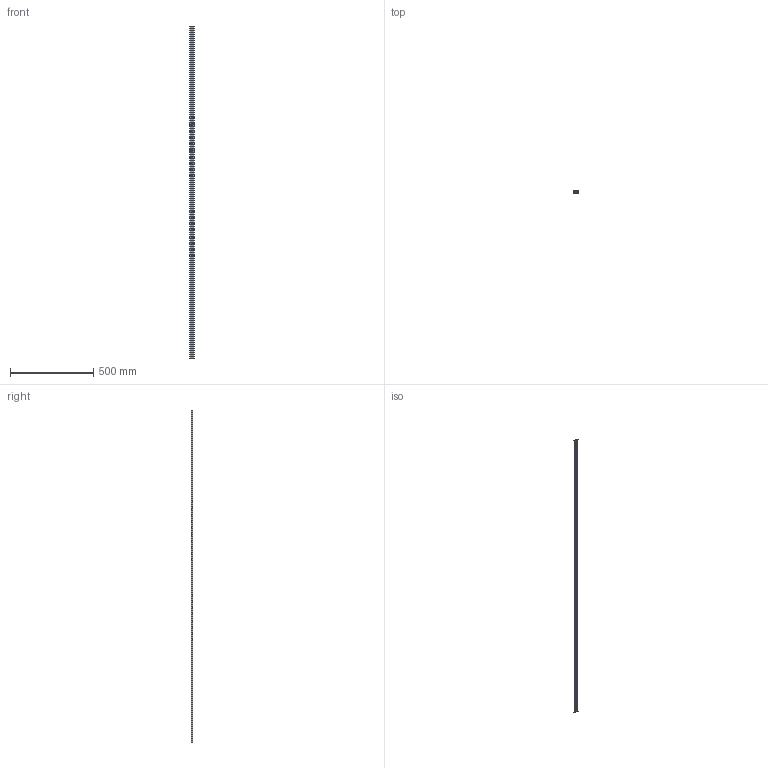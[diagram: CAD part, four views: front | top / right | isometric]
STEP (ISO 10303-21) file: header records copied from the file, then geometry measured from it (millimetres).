
FILE_DESCRIPTION(('STEP AP214'),'1');
FILE_NAME('CA.X.2510.2000G.stp','2020-03-16T08:35:06',(' '),(' '),'Spatial InterOp 3D',' ',' ');
FILE_SCHEMA(('AUTOMOTIVE_DESIGN { 1 0 10303 214 1 1 1 1 }'));
Length unit declared in the file: millimetre
Products named in the file (2): CA.X.2510.2000G
Assembly tree (1 placements, depth 2):
  CA.X.2510.2000G
    CA.X.2510.2000G
Bounding box: 25 x 10 x 2000 mm (x, y, z)
Volume: 223119.8 mm3; surface area: 298660.9 mm2
Topology: 1 solids, 1 shells, 60 faces, 174 edges, 116 vertices
Faces by surface type: cylinder 32, plane 28
Entity records: 2577 total; most frequent: DIRECTION 362, CARTESIAN_POINT 352, ORIENTED_EDGE 348, EDGE_CURVE 174, AXIS2_PLACEMENT_3D 126, VERTEX_POINT 116, LINE 110, VECTOR 110
